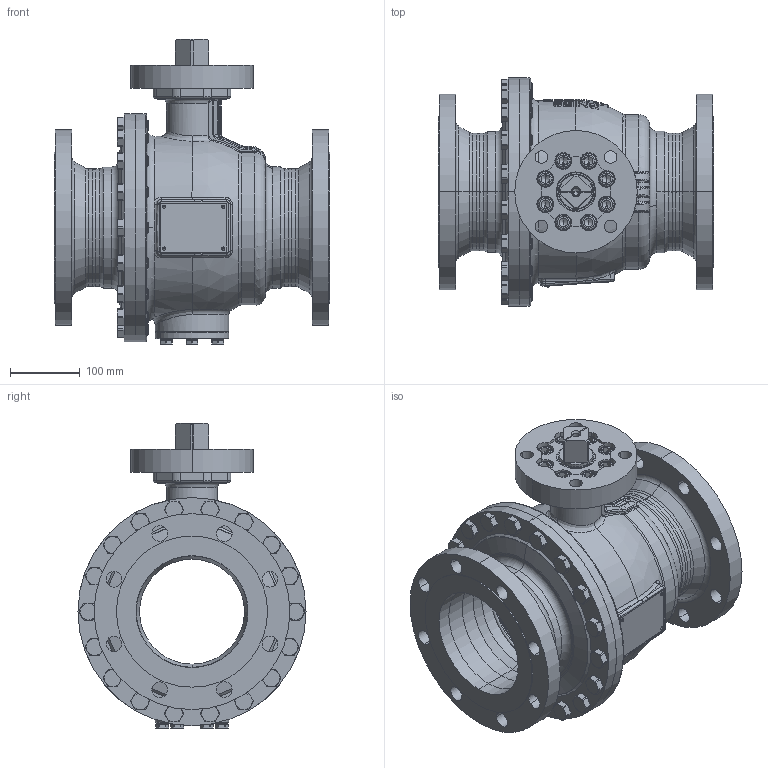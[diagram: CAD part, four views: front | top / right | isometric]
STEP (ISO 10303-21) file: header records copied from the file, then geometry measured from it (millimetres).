
FILE_DESCRIPTION((''),'2;1');
FILE_NAME('KHI-F_150_CL150-F14--_SW0001','2026-02-05T11:15:02',('fischerkl'),('KLINGER'),'CREO PARAMETRIC BY PTC INC, 2023014','CREO PARAMETRIC BY PTC INC, 2023014','');
FILE_SCHEMA(('CONFIG_CONTROL_DESIGN'));
Products named in the file (1): KHI-F_150_CL150-F14--_SW0001
Bounding box: 394 x 326 x 436.2 mm (x, y, z)
Volume: 8204832.5 mm3; surface area: 1551129.1 mm2
Topology: 1 solids, 4 shells, 3731 faces, 9570 edges, 5970 vertices
Faces by surface type: plane 2284, cylinder 678, cone 370, torus 258, bspline 113, sphere 28
Entity records: 144698 total; most frequent: CARTESIAN_POINT 56378, ORIENTED_EDGE 19088, DIRECTION 17466, EDGE_CURVE 9544, AXIS2_PLACEMENT_3D 6163, VERTEX_POINT 5970, VECTOR 5140, LINE 5140
